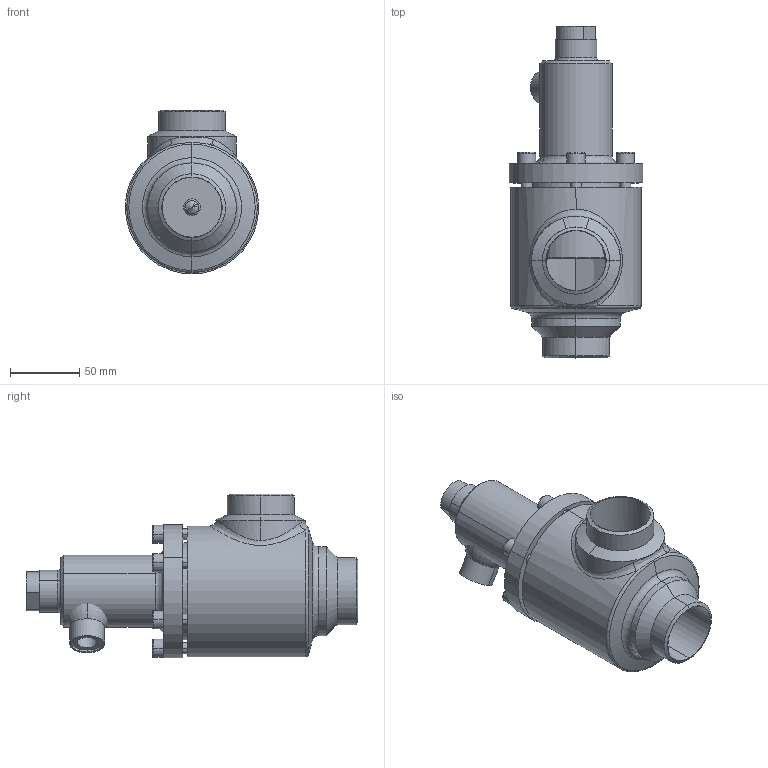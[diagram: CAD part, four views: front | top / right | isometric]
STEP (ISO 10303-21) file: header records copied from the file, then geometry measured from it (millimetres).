
FILE_DESCRIPTION (( 'STEP AP214' ), '1' );
FILE_NAME ('RVD4280xC14-DN40_6-9bar.STEP', '2007-01-10T14:58:58', ( 'Herr Grams' ), ( 'AWP GmbH' ), 'SwSTEP 2.0', 'SolidWorks 2002296', '' );
FILE_SCHEMA (( 'AUTOMOTIVE_DESIGN' ));
Length unit declared in the file: millimetre
Products named in the file (9): RVD4280xC14-DN40_6-9bar; Gehäuse16400-DN040_Standard; RVD42707E15_Deck+Schr-DN40-50_6-9bar_Standard; Deck-kpl42700E15-DN40-50_6-9bar_Standard; Gew-Muffe441_M16x1,5_Standard; Deckel42707E15-DN40-50_6-9bar_PS40_Standard; Schw-Rd25_DN40-50_Standard; Zylinderschraube-DIN912_M 8x 25; Verschlußschr4270xE15-DN40-50_1-9bar_M12x  73_8 bar
Assembly tree (13 placements, depth 4):
  RVD4280xC14-DN40_6-9bar
    Verschlußschr4270xE15-DN40-50_1-9bar_M12x  73_8 bar
    RVD42707E15_Deck+Schr-DN40-50_6-9bar_Standard
      Zylinderschraube-DIN912_M 8x 25  x6
      Deck-kpl42700E15-DN40-50_6-9bar_Standard
        Schw-Rd25_DN40-50_Standard
        Deckel42707E15-DN40-50_6-9bar_PS40_Standard
        Gew-Muffe441_M16x1,5_Standard
    Gehäuse16400-DN040_Standard
Bounding box: 96 x 239 x 118 mm (x, y, z)
Volume: 539189.5 mm3; surface area: 153151.4 mm2
Topology: 11 solids, 11 shells, 241 faces, 523 edges, 325 vertices
Faces by surface type: cylinder 90, plane 86, cone 40, torus 22, bspline 3
Entity records: 14555 total; most frequent: CARTESIAN_POINT 10601, DIRECTION 814, ORIENTED_EDGE 662, AXIS2_PLACEMENT_3D 347, EDGE_CURVE 331, VERTEX_POINT 205, EDGE_LOOP 188, CIRCLE 181
